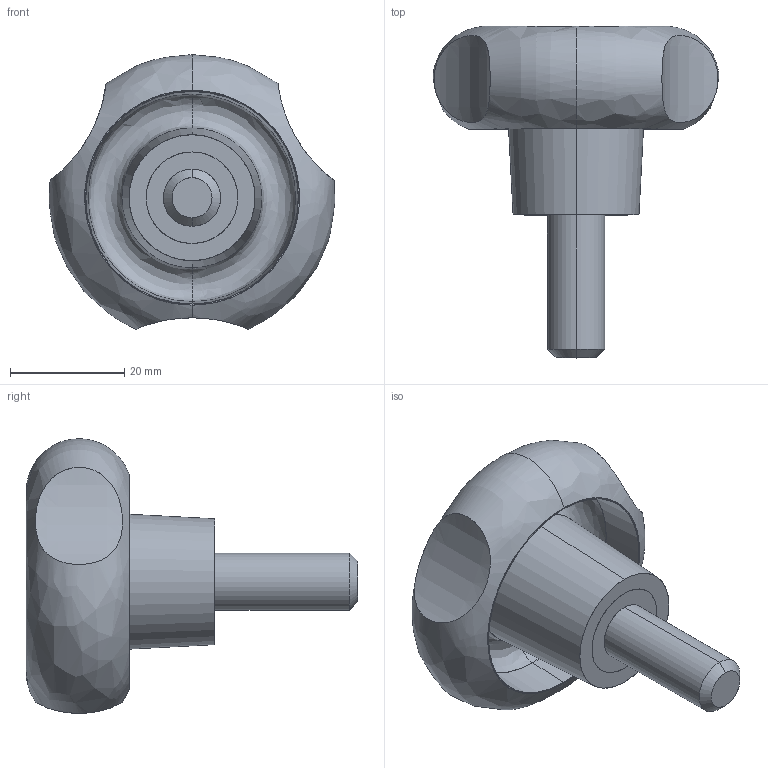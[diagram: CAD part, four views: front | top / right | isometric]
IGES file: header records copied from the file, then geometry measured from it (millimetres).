
Start section: SolidWorks IGES file using analytic representation for surfaces
Global section: file name: C:\Documents and Settings\IanO.IANOHOME\My Documents\Wix and Auto CAD Work\CAD Models\Parametric Models\Wix Models\7059\7059_IGES\7059.W101.igs; native system: SolidWorks 2009; preprocessor: SolidWorks 2009; author: IanO; date: 100907.123656; units: millimetre
Bounding box: 49.96 x 58 x 48 mm (x, y, z)
Surface area: 11923 mm2 (no closed solid volume)
Topology: 0 solids, 0 shells, 26 faces, 686 edges, 686 vertices
Faces by surface type: revolution 15, bspline 11
